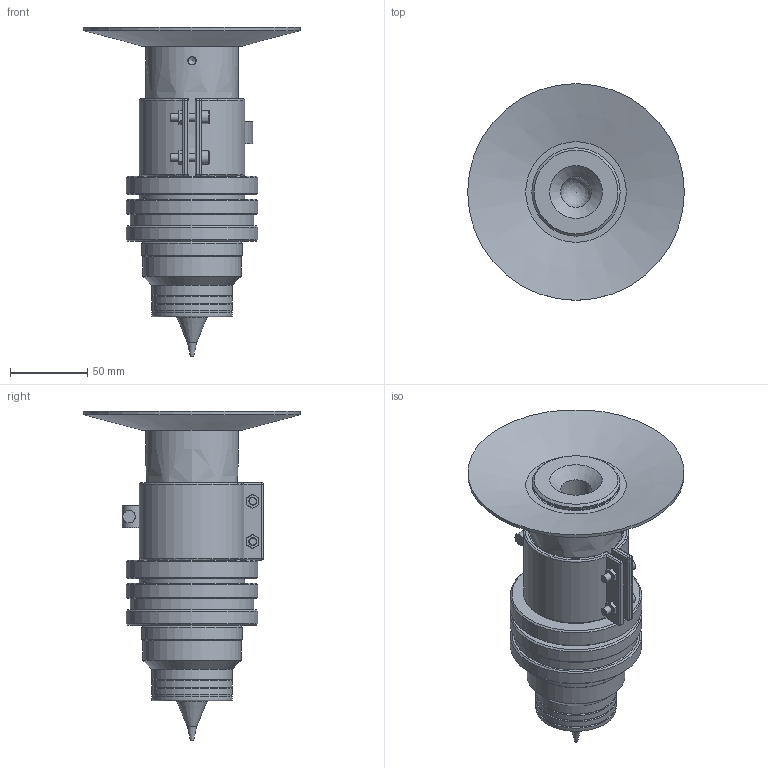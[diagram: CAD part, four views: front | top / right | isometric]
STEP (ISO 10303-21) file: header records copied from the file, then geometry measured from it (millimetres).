
FILE_DESCRIPTION(('STEP AP214'),'1');
FILE_NAME('IPS5000-A.stp','2018-06-13T13:47:43',(' '),(' '),'Spatial InterOp 3D',' ',' ');
FILE_SCHEMA(('AUTOMOTIVE_DESIGN { 1 0 10303 214 1 1 1 1 }'));
Length unit declared in the file: millimetre
Products named in the file (1): 1
Bounding box: 140 x 140 x 212.65 mm (x, y, z)
Volume: 586396.8 mm3; surface area: 146858.3 mm2
Topology: 9 solids, 9 shells, 227 faces, 469 edges, 268 vertices
Faces by surface type: plane 93, cylinder 60, cone 42, sphere 12, revolution 10, torus 9, bspline 1
Full cylindrical faces by diameter (mm): 4.2 x2, 5 x3, 5.5 x4, 6.55 x1, 8 x1, 8.5 x2, 11.6 x1, 12 x1, 12.01 x1, 19.5 x1, 19.52 x1, 45 x2, 52 x3, 54 x1, 57 x3, 63.5 x1, 65 x1, 67.8 x1, 68 x2, 80 x1, 85 x3, 140 x1
Entity records: 7457 total; most frequent: CARTESIAN_POINT 1238, DIRECTION 972, ORIENTED_EDGE 688, AXIS2_PLACEMENT_3D 400, EDGE_LOOP 358, EDGE_CURVE 344, FACE_OUTER_BOUND 279, VERTEX_POINT 253
